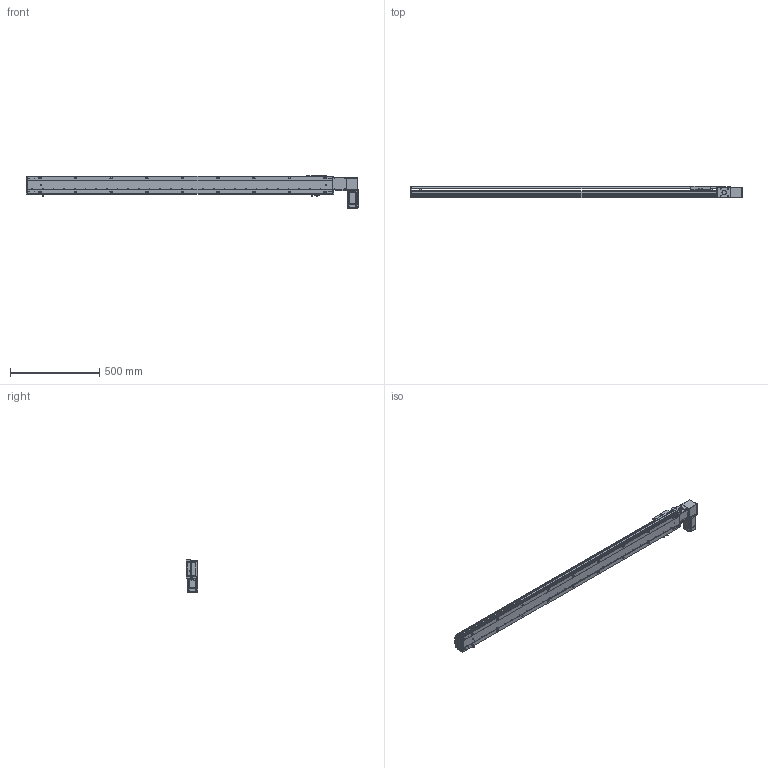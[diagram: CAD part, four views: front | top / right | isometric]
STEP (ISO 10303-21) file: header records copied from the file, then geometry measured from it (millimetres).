
FILE_DESCRIPTION (( 'STEP AP203' ), '1' );
FILE_NAME ('RY100-T-300-LK.SLDASM_1500.step', '2024-04-25T05:38:12', ( '盈信电脑' ), ( '东莞市道滘镇水果街19号' ), 'SwSTEP 2.0', 'SolidWorks 2016', '' );
FILE_SCHEMA (( 'CONFIG_CONTROL_DESIGN' ));
Length unit declared in the file: millimetre
Products named in the file (13): RY100綴裔啣; RY100-T-300-LK.SLDASM_1500; RY100-T肮祭謫翋盓傅釱; 覜茼ん672; RY100-T-300-RK倰第奻裔_1500; 滅袉蝶18-10; RY100-T翋肮祭謫裔啣2; RY100俋离覜茼え; RY80-T肮祭謫俋欶; RY100-T左右折电机安装板; 1; RY100-T肮祭謫臏賑輸; RY100-T-300-RK倰第菁釱_1500
Assembly tree (16 placements, depth 2):
  RY100-T-300-LK.SLDASM_1500
    RY100-T-300-RK倰第菁釱_1500
    RY100-T-300-RK倰第奻裔_1500
    RY100-T肮祭謫臏賑輸
    RY100綴裔啣
    覜茼ん672  x3
    RY100俋离覜茼え
    RY100-T肮祭謫翋盓傅釱
    滅袉蝶18-10  x2
    RY100-T翋肮祭謫裔啣2  x2
    RY80-T肮祭謫俋欶
    RY100-T左右折电机安装板
    1
Bounding box: 1864 x 66 x 182.5 mm (x, y, z)
Volume: 3410938.3 mm3; surface area: 1427161.3 mm2
Topology: 16 solids, 16 shells, 2212 faces, 6193 edges, 4027 vertices
Faces by surface type: plane 1182, cylinder 817, cone 135, bspline 78
Entity records: 71107 total; most frequent: CARTESIAN_POINT 17413, ORIENTED_EDGE 11122, DIRECTION 10545, EDGE_CURVE 5561, VERTEX_POINT 3663, VECTOR 3557, LINE 3557, AXIS2_PLACEMENT_3D 3494
